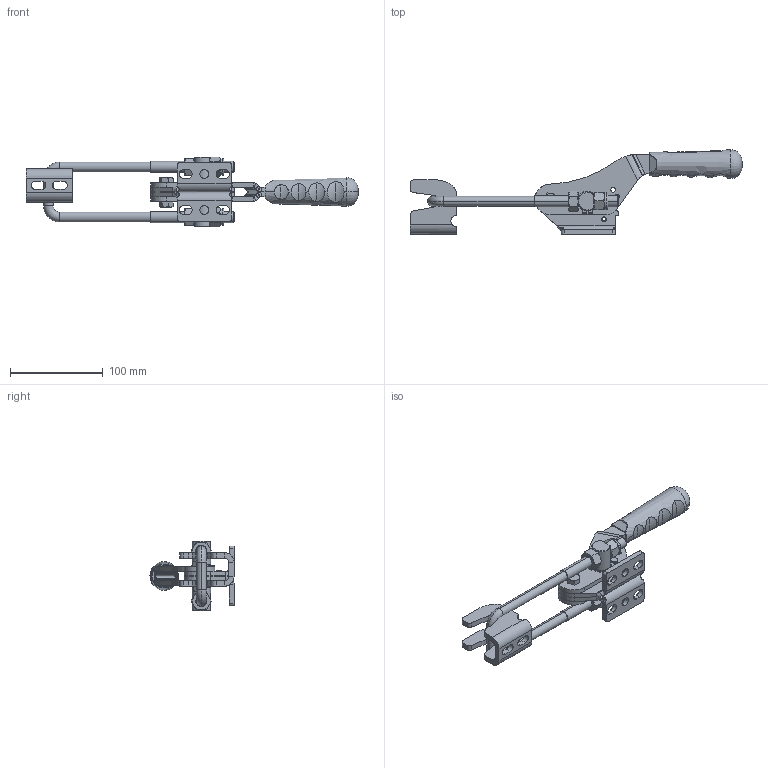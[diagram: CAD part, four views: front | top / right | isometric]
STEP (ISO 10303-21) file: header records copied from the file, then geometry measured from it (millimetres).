
FILE_DESCRIPTION (( 'STEP AP203' ), '1' );
FILE_NAME ('13012_Y.STEP', '2022-11-30T09:55:26', ( '' ), ( '' ), 'SwSTEP 2.0', 'SolidWorks 2023', '' );
FILE_SCHEMA (( 'CONFIG_CONTROL_DESIGN' ));
Length unit declared in the file: millimetre
Products named in the file (17): 13010 H kolu; 13012_Y; M12_U_Kanca_Varsayılan; autolock_nut_h_fr_nf_e_25-409_m12_6_1; M8 Somun_Varsayılan; circlips_o20-uni_7435; Aynalama13210 Gövde; mandal 2; Karşılık kancası m 12; 13210 Gövde; 07210-12; C100_T_10x20(YENİ_TUTAMAK_10x20)_Varsayılan; 5-12-1330659; hexagon_bolt_jis_b_1180_c_m8_x25_Varsayılan; Pim_5x22_Varsayılan; Aynalama13010 H kolu; 1391_Kanca mili_Varsayılan
Assembly tree (18 placements, depth 2):
  13012_Y
    13210 Gövde
    13010 H kolu
    Aynalama13210 Gövde
    1391_Kanca mili_Varsayılan
    Pim_5x22_Varsayılan
    M8 Somun_Varsayılan
    M12_U_Kanca_Varsayılan
    Karşılık kancası m 12
    Aynalama13010 H kolu
    07210-12  x2
    5-12-1330659
    autolock_nut_h_fr_nf_e_25-409_m12_6_1  x2
    circlips_o20-uni_7435  x2
    hexagon_bolt_jis_b_1180_c_m8_x25_Varsayılan
    C100_T_10x20(YENİ_TUTAMAK_10x20)_Varsayılan
  mandal 2
Bounding box: 357.56 x 90.7 x 75 mm (x, y, z)
Volume: 242456.2 mm3; surface area: 109750.6 mm2
Topology: 18 solids, 18 shells, 671 faces, 1679 edges, 1063 vertices
Faces by surface type: plane 322, cylinder 213, cone 76, bspline 32, torus 28
Entity records: 23477 total; most frequent: CARTESIAN_POINT 7262, ORIENTED_EDGE 3028, DIRECTION 2938, EDGE_CURVE 1514, AXIS2_PLACEMENT_3D 1069, VERTEX_POINT 961, LINE 800, VECTOR 800
